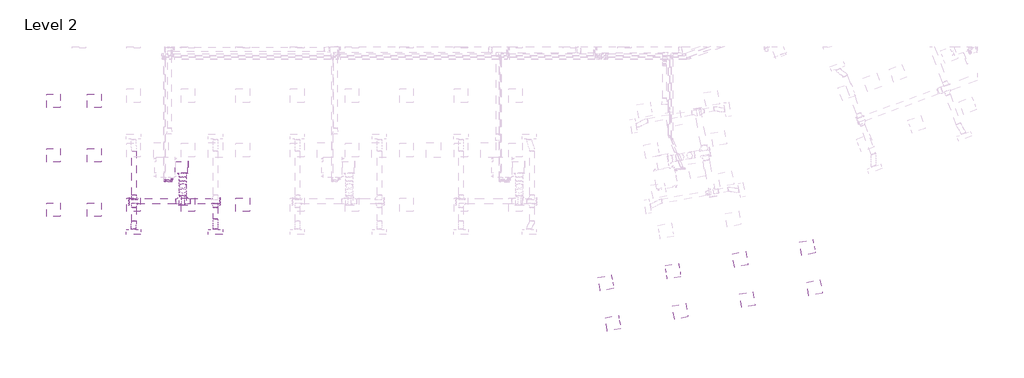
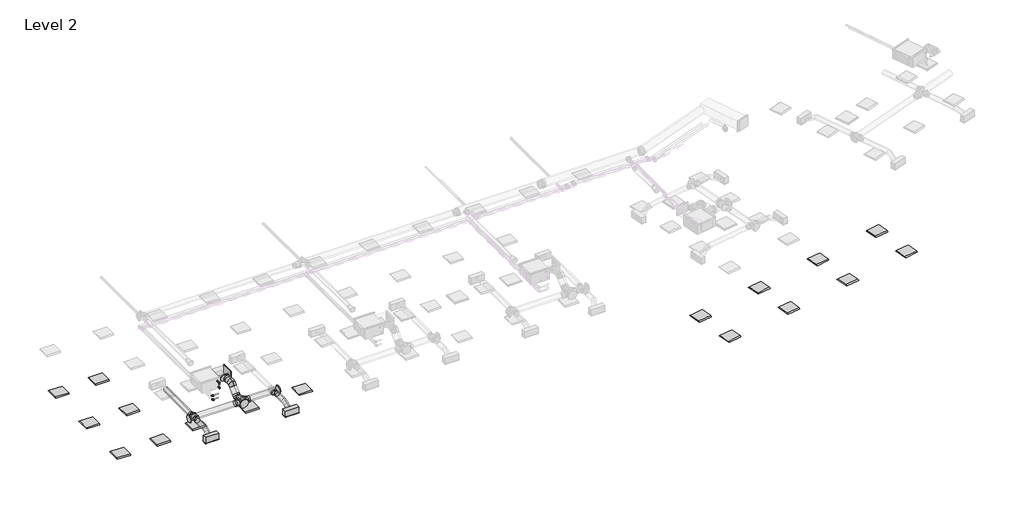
# One storey, part 1 of 26: 17 light fixtures, 12 duct fittings, 11 duct segments, 6 pipe fittings, 4 pipe segments, 2 air terminals.
"""IFC4 building model written with IfcOpenShell, lengths in millimetres."""

from ifc_helpers import new_model, si_unit, point, frame, frame_2d, origin, place, context, project, spatial, polyline, circle_curve, ellipse_curve, trimmed, segment, composite_curve, outline, extrude, transform, mapped, element, save
from ifc_brep_helpers import plane_surface, cylinder_surface, advanced_brep
from components import supply_diffuser_with_plenum_linear_slot_hosted_8c379eed, dw144_rectangular_blank_end_standard_8fde7d16, dw144_round_blank_end_standard_f82b0856, dw144_round_blank_end_standard_9aa061e7, dw144_round_segmented_bend_slip_joint_standard_8b80c5ae, dw144_round_shoe_branch_slip_joint1_standard_2_15a2edd8, dw144_round_shoe_branch_slip_joint1_standard_2_559552f4, dw144_round_shoe_branch_slip_joint1_standard_2_7ba9e4ed, dw144_round_shoe_branch_slip_joint1_standard_2_67b64720, light_fixture_1c7c1157, light_fixture_b730b5ca, elbow_threaded_gmi_standard_b4aa7741, socket_reducing_threaded_gmi_standard_0a4076b8

model = new_model("IFC4")

# Units and contexts
model_context = context("Model", 3, world=origin())
ifc_project = project(units=[si_unit("LENGTHUNIT", "METRE", prefix="MILLI")], contexts=[model_context])

# Site, building, storey
site = spatial("IfcSite", under=ifc_project)
building = spatial("IfcBuilding", under=site)
storey = spatial("IfcBuildingStorey", under=building, Name="Level 2", Elevation=7800.0)

# Air terminals
placement = place(None, origin())
supply_diffuser_with_plenum_linear_slot_hosted_shape = supply_diffuser_with_plenum_linear_slot_hosted_8c379eed(model_context)
element("IfcAirTerminal", 1, ObjectType="Supply Diffuser with Plenum - Linear Slot - Hosted : 24\" x 8\"-200 In Inlet  4-Slot", at=placement, inside=storey, context=model_context, shape_type="MappedRepresentation", body=[
    mapped(supply_diffuser_with_plenum_linear_slot_hosted_shape, transform((9162.2000027, 963.2000004, 10600.0), x_axis=(1.0, 0.0, 0.0), y_axis=(0.0, -1.0, 0.0), z_axis=(0.0, 0.0, -1.0))),
])
element("IfcAirTerminal", 2, ObjectType="Supply Diffuser with Plenum - Linear Slot - Hosted : 24\" x 8\"-200 In Inlet  4-Slot", at=placement, inside=storey, context=model_context, shape_type="MappedRepresentation", body=[
    mapped(supply_diffuser_with_plenum_linear_slot_hosted_shape, transform((12762.2000027, 963.2000004, 10600.0), x_axis=(1.0, 0.0, 0.0), y_axis=(0.0, -1.0, 0.0), z_axis=(0.0, 0.0, -1.0))),
])

# Duct fittings
dw144_rectangular_blank_end_standard_shape = dw144_rectangular_blank_end_standard_8fde7d16(model_context)
element("IfcDuctFitting", 3, ObjectType="DW144 Rectangular Blank End : Standard", at=placement, inside=storey, context=model_context, shape_type="MappedRepresentation", body=[
    mapped(dw144_rectangular_blank_end_standard_shape, transform((11546.2561025, 3806.0000004, 11276.3911538), x_axis=(1.0, 0.0, 0.0), y_axis=(0.0, 1.0, 0.0), z_axis=(0.0, 0.0, 1.0))),
])
dw144_round_blank_end_standard_shape = dw144_round_blank_end_standard_f82b0856(model_context)
element("IfcDuctFitting", 4, ObjectType="DW144 Round Blank End : Standard", at=placement, inside=storey, context=model_context, shape_type="MappedRepresentation", body=[
    mapped(dw144_round_blank_end_standard_shape, transform((11331.4561025, 2142.9916128, 10872.2088531), x_axis=(0.0, -1.0, 0.0), y_axis=(1.0, 0.0, 0.0), z_axis=(0.0, 0.0, 1.0))),
])
dw144_round_blank_end_standard_2_shape = dw144_round_blank_end_standard_9aa061e7(model_context)
element("IfcDuctFitting", 5, ObjectType="DW144 Round Blank End : Standard", at=placement, inside=storey, context=model_context, shape_type="MappedRepresentation", body=[
    mapped(dw144_round_blank_end_standard_2_shape, transform((12961.4561025, 2306.5018192, 10872.2088531), x_axis=(1.0, 0.0, 0.0), y_axis=(0.0, 1.0, 0.0), z_axis=(0.0, 0.0, 1.0))),
])
element("IfcDuctFitting", 6, ObjectType="DW144 Round Blank End : Standard", at=placement, inside=storey, context=model_context, shape_type="MappedRepresentation", body=[
    mapped(dw144_round_blank_end_standard_2_shape, transform((8961.4561025, 2306.5018192, 10872.2088531), x_axis=(-1.0, 0.0, 0.0), y_axis=(0.0, -1.0, 0.0), z_axis=(0.0, 0.0, 1.0))),
])
dw144_round_segmented_bend_slip_joint_standard_shape = dw144_round_segmented_bend_slip_joint_standard_8b80c5ae(model_context)
element("IfcDuctFitting", 7, ObjectType="DW144 Round Segmented Bend - Slip Joint : Standard", at=placement, inside=storey, context=model_context, shape_type="MappedRepresentation", body=[
    mapped(dw144_round_segmented_bend_slip_joint_standard_shape, transform((11331.4561025, 2678.6338536, 10872.2088531), x_axis=(0.0, -0.7071067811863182, -0.7071067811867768), y_axis=(0.0, 0.7071067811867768, -0.7071067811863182), z_axis=(1.0, 0.0, 0.0))),
])
element("IfcDuctFitting", 8, ObjectType="DW144 Round Segmented Bend - Slip Joint : Standard", at=placement, inside=storey, context=model_context, shape_type="MappedRepresentation", body=[
    mapped(dw144_round_segmented_bend_slip_joint_standard_shape, transform((11331.4561025, 3076.0000004, 11269.575), x_axis=(0.0, -1.0, 0.0), y_axis=(0.0, 0.0, 1.0), z_axis=(-1.0, 0.0, 0.0))),
])
dw144_round_shoe_branch_slip_joint1_standard_2_shape = dw144_round_shoe_branch_slip_joint1_standard_2_15a2edd8(model_context)
element("IfcDuctFitting", 9, ObjectType="DW144 Round Shoe Branch - Slip Joint1 : Standard 2", at=placement, inside=storey, context=model_context, shape_type="MappedRepresentation", body=[
    mapped(dw144_round_shoe_branch_slip_joint1_standard_2_shape, transform((9173.9000022, 2181.5018192, 10872.2088531), x_axis=(0.0, -1.0, 0.0), y_axis=(-1.0, 0.0, 0.0), z_axis=(0.0, 0.0, -1.0))),
])
element("IfcDuctFitting", 10, ObjectType="DW144 Round Shoe Branch - Slip Joint1 : Standard 2", at=placement, inside=storey, context=model_context, shape_type="MappedRepresentation", body=[
    mapped(dw144_round_shoe_branch_slip_joint1_standard_2_shape, transform((9173.9000022, 2431.5018192, 10872.2088531), x_axis=(0.0, 1.0, 0.0), y_axis=(-1.0, 0.0, 0.0), z_axis=(0.0, 0.0, 1.0))),
])
dw144_round_shoe_branch_slip_joint1_standard_2_2_shape = dw144_round_shoe_branch_slip_joint1_standard_2_559552f4(model_context)
element("IfcDuctFitting", 11, ObjectType="DW144 Round Shoe Branch - Slip Joint1 : Standard 2", at=placement, inside=storey, context=model_context, shape_type="MappedRepresentation", body=[
    mapped(dw144_round_shoe_branch_slip_joint1_standard_2_2_shape, transform((12773.9000022, 2181.5018192, 10872.2088531), x_axis=(0.0, -1.0, 0.0), y_axis=(-1.0, 0.0, 0.0), z_axis=(0.0, 0.0, -1.0))),
])
dw144_round_shoe_branch_slip_joint1_standard_2_3_shape = dw144_round_shoe_branch_slip_joint1_standard_2_7ba9e4ed(model_context)
element("IfcDuctFitting", 12, ObjectType="DW144 Round Shoe Branch - Slip Joint1 : Standard 2", at=placement, inside=storey, context=model_context, shape_type="MappedRepresentation", body=[
    mapped(dw144_round_shoe_branch_slip_joint1_standard_2_3_shape, transform((11331.4561025, 3556.0000004, 11269.575), x_axis=(0.0, -1.0, 0.0), y_axis=(-1.0, 0.0, 0.0), z_axis=(0.0, 0.0, -1.0))),
])
dw144_round_shoe_branch_slip_joint1_standard_2_4_shape = dw144_round_shoe_branch_slip_joint1_standard_2_67b64720(model_context)
element("IfcDuctFitting", 13, ObjectType="DW144 Round Shoe Branch - Slip Joint1 : Standard 2", at=placement, inside=storey, context=model_context, shape_type="MappedRepresentation", body=[
    mapped(dw144_round_shoe_branch_slip_joint1_standard_2_4_shape, transform((11481.4561025, 2306.5018192, 10872.2088531), x_axis=(1.0, 0.0, 0.0), y_axis=(0.0, -1.0, 0.0), z_axis=(0.0, 0.0, -1.0))),
])
element("IfcDuctFitting", 14, ObjectType="DW144 Round Shoe Branch - Slip Joint1 : Standard 2", at=placement, inside=storey, context=model_context, shape_type="MappedRepresentation", body=[
    mapped(dw144_round_shoe_branch_slip_joint1_standard_2_4_shape, transform((11181.4561025, 2306.5018192, 10872.2088531), x_axis=(-1.0, 0.0, 0.0), y_axis=(0.0, -1.0, 0.0), z_axis=(0.0, 0.0, 1.0))),
])

# Duct segments
element("IfcDuctSegment", 15, ObjectType="DW144 Flanged Med Radius Bend / Shoe Branch", at=placement, inside=storey, context=model_context, shape_type="SweptSolid", body=[
    extrude(outline(polyline([(10993.0441119, 3556.0000004), (10993.0441119, 4056.0000004), (11546.2561025, 4056.0000004), (11546.2561025, 3556.0000004), (10993.0441119, 3556.0000004)])), frame((0.0, 0.0, 11101.3911538), z_axis=(0.0, 0.0, 1.0), x_axis=(1.0, 0.0, 0.0)), (0.0, 0.0, 1.0), 350.0),
])
element("IfcDuctSegment", 16, ObjectType="DW144 Segmented Bend / Shoe Branch", at=placement, inside=storey, context=model_context, shape_type="SweptSolid", body=[
    extrude(outline(composite_curve([segment(trimmed(circle_curve(frame_2d((11269.575, 11331.4561025)), 150.0), [point((11269.575, 11181.4561025))], [point((11119.575, 11331.4561025))], False, "CARTESIAN"), True, "CONTINUOUS"), segment(trimmed(circle_curve(frame_2d((11269.575, 11331.4561025)), 150.0), [point((11119.575, 11331.4561025))], [point((11269.575, 11481.4561025))], False, "CARTESIAN"), True, "CONTINUOUS"), segment(trimmed(circle_curve(frame_2d((11269.575, 11331.4561025)), 150.0), [point((11269.575, 11481.4561025))], [point((11419.575, 11331.4561025))], False, "CARTESIAN"), True, "CONTINUOUS"), segment(trimmed(circle_curve(frame_2d((11269.575, 11331.4561025)), 150.0), [point((11419.575, 11331.4561025))], [point((11269.575, 11181.4561025))], False, "CARTESIAN"), True, "CONTINUOUS")], self_intersect=False)), frame((0.0, 3200.2640691, 0.0), z_axis=(0.0, 1.0, 0.0), x_axis=(0.0, 0.0, 1.0)), (0.0, 0.0, 1.0), 180.7359313),
])
element("IfcDuctSegment", 17, ObjectType="DW144 Segmented Bend / Shoe Branch", at=placement, inside=storey, context=model_context, shape_type="SweptSolid", body=[
    extrude(outline(composite_curve([segment(trimmed(circle_curve(frame_2d((10872.2088531, 11331.4561025)), 150.0), [point((10872.2088531, 11181.4561025))], [point((10722.2088531, 11331.4561025))], False, "CARTESIAN"), True, "CONTINUOUS"), segment(trimmed(circle_curve(frame_2d((10872.2088531, 11331.4561025)), 150.0), [point((10722.2088531, 11331.4561025))], [point((10872.2088531, 11481.4561025))], False, "CARTESIAN"), True, "CONTINUOUS"), segment(trimmed(circle_curve(frame_2d((10872.2088531, 11331.4561025)), 150.0), [point((10872.2088531, 11481.4561025))], [point((11022.2088531, 11331.4561025))], False, "CARTESIAN"), True, "CONTINUOUS"), segment(trimmed(circle_curve(frame_2d((10872.2088531, 11331.4561025)), 150.0), [point((11022.2088531, 11331.4561025))], [point((10872.2088531, 11181.4561025))], False, "CARTESIAN"), True, "CONTINUOUS")], self_intersect=False)), frame((0.0, 2142.9916128, 0.0), z_axis=(0.0, 1.0, 0.0), x_axis=(0.0, 0.0, 1.0)), (0.0, 0.0, 1.0), 411.3781721),
])
element("IfcDuctSegment", 18, ObjectType="DW144 Segmented Bend / Shoe Branch", at=placement, inside=storey, context=model_context, shape_type="SweptSolid", body=[
    extrude(outline(composite_curve([segment(trimmed(circle_curve(frame_2d((0.0, -150.0)), 150.0), [point((-150.0, -150.0))], [point((0.0, 0.0))], False, "CARTESIAN"), True, "CONTINUOUS"), segment(trimmed(circle_curve(frame_2d((0.0, -150.0)), 150.0), [point((0.0, 0.0))], [point((150.0, -150.0))], False, "CARTESIAN"), True, "CONTINUOUS"), segment(trimmed(circle_curve(frame_2d((0.0, -150.0)), 150.0), [point((150.0, -150.0))], [point((0.0, -300.0))], False, "CARTESIAN"), True, "CONTINUOUS"), segment(trimmed(circle_curve(frame_2d((0.0, -150.0)), 150.0), [point((0.0, -300.0))], [point((-150.0, -150.0))], False, "CARTESIAN"), True, "CONTINUOUS")], self_intersect=False)), frame((11331.4561025, 2872.5678364, 10854.0108016), z_axis=(0.0, 0.7071067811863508, 0.7071067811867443), x_axis=(1.0, 0.0, 0.0)), (0.0, 0.0, 1.0), 313.4324567),
])
element("IfcDuctSegment", 19, ObjectType="DW144 Segmented Bend / Shoe Branch", at=placement, inside=storey, context=model_context, shape_type="SweptSolid", body=[
    extrude(outline(composite_curve([segment(trimmed(circle_curve(frame_2d((2306.5018192, 10872.2088531)), 125.0), [point((2181.5018192, 10872.2088531))], [point((2306.5018192, 10997.2088531))], False, "CARTESIAN"), True, "CONTINUOUS"), segment(trimmed(circle_curve(frame_2d((2306.5018192, 10872.2088531)), 125.0), [point((2306.5018192, 10997.2088531))], [point((2431.5018192, 10872.2088531))], False, "CARTESIAN"), True, "CONTINUOUS"), segment(trimmed(circle_curve(frame_2d((2306.5018192, 10872.2088531)), 125.0), [point((2431.5018192, 10872.2088531))], [point((2306.5018192, 10747.2088531))], False, "CARTESIAN"), True, "CONTINUOUS"), segment(trimmed(circle_curve(frame_2d((2306.5018192, 10872.2088531)), 125.0), [point((2306.5018192, 10747.2088531))], [point((2181.5018192, 10872.2088531))], False, "CARTESIAN"), True, "CONTINUOUS")], self_intersect=False)), frame((11656.4561025, 0.0, 0.0), z_axis=(1.0, 0.0, 0.0), x_axis=(0.0, 1.0, 0.0)), (0.0, 0.0, 1.0), 1305.0),
])
element("IfcDuctSegment", 20, ObjectType="DW144 Segmented Bend / Shoe Branch", at=placement, inside=storey, context=model_context, shape_type="SweptSolid", body=[
    extrude(outline(composite_curve([segment(trimmed(circle_curve(frame_2d((2306.5018192, 10872.2088531)), 125.0), [point((2431.5018192, 10872.2088531))], [point((2306.5018192, 10747.2088531))], False, "CARTESIAN"), True, "CONTINUOUS"), segment(trimmed(circle_curve(frame_2d((2306.5018192, 10872.2088531)), 125.0), [point((2306.5018192, 10747.2088531))], [point((2181.5018192, 10872.2088531))], False, "CARTESIAN"), True, "CONTINUOUS"), segment(trimmed(circle_curve(frame_2d((2306.5018192, 10872.2088531)), 125.0), [point((2181.5018192, 10872.2088531))], [point((2306.5018192, 10997.2088531))], False, "CARTESIAN"), True, "CONTINUOUS"), segment(trimmed(circle_curve(frame_2d((2306.5018192, 10872.2088531)), 125.0), [point((2306.5018192, 10997.2088531))], [point((2431.5018192, 10872.2088531))], False, "CARTESIAN"), True, "CONTINUOUS")], self_intersect=False)), frame((8961.4561025, 0.0, 0.0), z_axis=(1.0, 0.0, 0.0), x_axis=(0.0, 1.0, 0.0)), (0.0, 0.0, 1.0), 2045.0),
])
element("IfcDuctSegment", 21, ObjectType="DW144 Segmented Bend / Shoe Branch", at=placement, inside=storey, context=model_context, shape_type="SweptSolid", body=[
    extrude(outline(composite_curve([segment(trimmed(circle_curve(frame_2d((10872.2088531, 12773.9000022)), 100.0), [point((10872.2088531, 12673.9000022))], [point((10772.2088531, 12773.9000022))], False, "CARTESIAN"), True, "CONTINUOUS"), segment(trimmed(circle_curve(frame_2d((10872.2088531, 12773.9000022)), 100.0), [point((10772.2088531, 12773.9000022))], [point((10872.2088531, 12873.9000022))], False, "CARTESIAN"), True, "CONTINUOUS"), segment(trimmed(circle_curve(frame_2d((10872.2088531, 12773.9000022)), 100.0), [point((10872.2088531, 12873.9000022))], [point((10972.2088531, 12773.9000022))], False, "CARTESIAN"), True, "CONTINUOUS"), segment(trimmed(circle_curve(frame_2d((10872.2088531, 12773.9000022)), 100.0), [point((10972.2088531, 12773.9000022))], [point((10872.2088531, 12673.9000022))], False, "CARTESIAN"), True, "CONTINUOUS")], self_intersect=False)), frame((0.0, 1521.5018192, 0.0), z_axis=(0.0, 1.0, 0.0), x_axis=(0.0, 0.0, 1.0)), (0.0, 0.0, 1.0), 510.0),
])
element("IfcDuctSegment", 22, ObjectType="DW144 Segmented Bend / Shoe Branch", at=placement, inside=storey, context=model_context, shape_type="SweptSolid", body=[
    extrude(outline(composite_curve([segment(trimmed(circle_curve(frame_2d((10872.2088531, 9173.9000022)), 100.0), [point((10872.2088531, 9273.9000022))], [point((10972.2088531, 9173.9000022))], False, "CARTESIAN"), True, "CONTINUOUS"), segment(trimmed(circle_curve(frame_2d((10872.2088531, 9173.9000022)), 100.0), [point((10972.2088531, 9173.9000022))], [point((10872.2088531, 9073.9000022))], False, "CARTESIAN"), True, "CONTINUOUS"), segment(trimmed(circle_curve(frame_2d((10872.2088531, 9173.9000022)), 100.0), [point((10872.2088531, 9073.9000022))], [point((10772.2088531, 9173.9000022))], False, "CARTESIAN"), True, "CONTINUOUS"), segment(trimmed(circle_curve(frame_2d((10872.2088531, 9173.9000022)), 100.0), [point((10772.2088531, 9173.9000022))], [point((10872.2088531, 9273.9000022))], False, "CARTESIAN"), True, "CONTINUOUS")], self_intersect=False)), frame((0.0, 1441.5018192, 0.0), z_axis=(0.0, 1.0, 0.0), x_axis=(0.0, 0.0, 1.0)), (0.0, 0.0, 1.0), 590.0),
])
element("IfcDuctSegment", 23, ObjectType="DW144 Segmented Bend / Shoe Branch", at=placement, inside=storey, context=model_context, shape_type="SweptSolid", body=[
    extrude(outline(composite_curve([segment(trimmed(circle_curve(frame_2d((10872.2088531, 9173.9000022)), 100.0), [point((10872.2088531, 9273.9000022))], [point((10972.2088531, 9173.9000022))], False, "CARTESIAN"), True, "CONTINUOUS"), segment(trimmed(circle_curve(frame_2d((10872.2088531, 9173.9000022)), 100.0), [point((10972.2088531, 9173.9000022))], [point((10872.2088531, 9073.9000022))], False, "CARTESIAN"), True, "CONTINUOUS"), segment(trimmed(circle_curve(frame_2d((10872.2088531, 9173.9000022)), 100.0), [point((10872.2088531, 9073.9000022))], [point((10772.2088531, 9173.9000022))], False, "CARTESIAN"), True, "CONTINUOUS"), segment(trimmed(circle_curve(frame_2d((10872.2088531, 9173.9000022)), 100.0), [point((10772.2088531, 9173.9000022))], [point((10872.2088531, 9273.9000022))], False, "CARTESIAN"), True, "CONTINUOUS")], self_intersect=False)), frame((0.0, 2581.5018192, 0.0), z_axis=(0.0, 1.0, 0.0), x_axis=(0.0, 0.0, 1.0)), (0.0, 0.0, 1.0), 1950.0),
])
element("IfcDuctSegment", 24, ObjectType="Flex - Round", at=placement, inside=storey, context=model_context, shape_type="AdvancedBrep", body=[
    advanced_brep(
    [(9273.9000022, 1441.5018192, 10872.2088531), (9173.9000022, 1441.5018192, 10772.2088531), (9073.9000022, 1441.5018192, 10872.2088531), (9173.9000022, 1441.5018192, 10972.2088531), (9273.9000022, 1419.9886644, 10872.2088531), (9173.9000022, 1434.4041273, 10772.2088531), (9073.9000022, 1422.5932881, 10872.2088531), (9173.9000022, 1408.1778252, 10972.2088531), (9262.2000027, 1092.1000004, 10754.4), (9162.2000027, 1092.1000004, 10854.4), (9062.2000027, 1092.1000004, 10754.4), (9162.2000027, 1092.1000004, 10654.4), (9272.0154345, 1348.8904029, 10853.2328893), (9172.6402079, 1386.8764181, 10759.5238159), (9072.1283201, 1355.7538157, 10854.3695504), (9171.5035467, 1317.7678004, 10948.0786237), (9267.9552415, 1262.5544078, 10812.3502664), (9169.0041626, 1309.5595036, 10722.9119919), (9068.1447633, 1271.0474118, 10814.2585867), (9167.0958423, 1224.0423161, 10903.6968612), (9263.9716847, 1177.8480039, 10772.2393027), (9164.5964582, 1215.8340192, 10678.5302294), (9064.0845704, 1184.7114168, 10773.3759639), (9163.459797, 1146.7254015, 10867.0850372), (9262.2000027, 1111.0085316, 10754.4), (9162.2000027, 1125.4239944, 10654.4), (9062.2000027, 1113.6131552, 10754.4), (9162.2000027, 1099.1976924, 10854.4)],
    [
        (0, 1, circle_curve(frame((9173.9000022, 1441.5018192, 10872.2088531), z_axis=(0.0, 1.0, 0.0), x_axis=(1.0, 0.0, 0.0)), 100.0)),
        (1, 2, circle_curve(frame((9173.9000022, 1441.5018192, 10872.2088531), z_axis=(0.0, 1.0, 0.0), x_axis=(1.0, 0.0, 0.0)), 100.0)),
        (2, 3, circle_curve(frame((9173.9000022, 1441.5018192, 10872.2088531), z_axis=(0.0, 1.0, 0.0), x_axis=(1.0, 0.0, 0.0)), 100.0)),
        (3, 0, circle_curve(frame((9173.9000022, 1441.5018192, 10872.2088531), z_axis=(0.0, 1.0, 0.0), x_axis=(1.0, 0.0, 0.0)), 100.0)),
        (0, 4),
        (4, 5, ellipse_curve(frame((9173.9000022, 1421.2909763, 10872.2088531), z_axis=(0.01291149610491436, 0.9914289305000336, 0.13000757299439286), x_axis=(-0.09798018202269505, 0.1306471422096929, -0.9865754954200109)), 100.8645168, 100.0)),
        (5, 1),
        (5, 6, ellipse_curve(frame((9173.9000022, 1421.2909763, 10872.2088531), z_axis=(0.01291149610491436, 0.9914289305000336, 0.13000757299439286), x_axis=(-0.09798018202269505, 0.1306471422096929, -0.9865754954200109)), 100.8645168, 100.0)),
        (6, 2),
        (6, 7, ellipse_curve(frame((9173.9000022, 1421.2909763, 10872.2088531), z_axis=(0.01291149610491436, 0.9914289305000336, 0.13000757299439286), x_axis=(-0.09798018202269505, 0.1306471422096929, -0.9865754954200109)), 100.8645168, 100.0)),
        (7, 3),
        (7, 4, ellipse_curve(frame((9173.9000022, 1421.2909763, 10872.2088531), z_axis=(0.01291149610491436, 0.9914289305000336, 0.13000757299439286), x_axis=(-0.09798018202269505, 0.1306471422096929, -0.9865754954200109)), 100.8645168, 100.0)),
        (8, 9, circle_curve(frame((9162.2000027, 1092.1000004, 10754.4), z_axis=(0.0, -1.0, 0.0), x_axis=(1.0, 0.0, 0.0)), 100.0)),
        (9, 10, circle_curve(frame((9162.2000027, 1092.1000004, 10754.4), z_axis=(0.0, -1.0, 0.0), x_axis=(1.0, 0.0, 0.0)), 100.0)),
        (10, 11, circle_curve(frame((9162.2000027, 1092.1000004, 10754.4), z_axis=(0.0, -1.0, 0.0), x_axis=(1.0, 0.0, 0.0)), 100.0)),
        (11, 8, circle_curve(frame((9162.2000027, 1092.1000004, 10754.4), z_axis=(0.0, -1.0, 0.0), x_axis=(1.0, 0.0, 0.0)), 100.0)),
        (4, 12),
        (12, 13, ellipse_curve(frame((9172.0718773, 1352.3221093, 10853.8012198), z_axis=(0.03417490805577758, 0.9383065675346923, 0.34411169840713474), x_axis=(-0.09273024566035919, 0.34580454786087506, -0.9337131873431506)), 100.4159667, 100.0)),
        (13, 5),
        (13, 14, ellipse_curve(frame((9172.0718773, 1352.3221093, 10853.8012198), z_axis=(0.03417490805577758, 0.9383065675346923, 0.34411169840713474), x_axis=(-0.09273024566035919, 0.34580454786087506, -0.9337131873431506)), 100.4159667, 100.0)),
        (14, 6),
        (14, 15, ellipse_curve(frame((9172.0718773, 1352.3221093, 10853.8012198), z_axis=(0.03417490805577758, 0.9383065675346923, 0.34411169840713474), x_axis=(-0.09273024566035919, 0.34580454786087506, -0.9337131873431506)), 100.4159667, 100.0)),
        (15, 7),
        (15, 12, ellipse_curve(frame((9172.0718773, 1352.3221093, 10853.8012198), z_axis=(0.03417490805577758, 0.9383065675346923, 0.34411169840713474), x_axis=(-0.09273024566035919, 0.34580454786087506, -0.9337131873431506)), 100.4159667, 100.0)),
        (12, 16),
        (16, 17, circle_curve(frame((9168.0500024, 1266.8009098, 10813.3044266), z_axis=(0.04246501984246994, 0.9029767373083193, 0.42758593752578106), x_axis=(0.999052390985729, -0.042465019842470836, -0.009541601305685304)), 100.0)),
        (17, 13),
        (17, 18, circle_curve(frame((9168.0500024, 1266.8009098, 10813.3044266), z_axis=(0.04246501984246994, 0.9029767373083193, 0.42758593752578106), x_axis=(0.999052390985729, -0.042465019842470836, -0.009541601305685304)), 100.0)),
        (18, 14),
        (18, 19, circle_curve(frame((9168.0500024, 1266.8009098, 10813.3044266), z_axis=(0.04246501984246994, 0.9029767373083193, 0.42758593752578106), x_axis=(0.999052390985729, -0.042465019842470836, -0.009541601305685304)), 100.0)),
        (19, 15),
        (19, 16, circle_curve(frame((9168.0500024, 1266.8009098, 10813.3044266), z_axis=(0.04246501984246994, 0.9029767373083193, 0.42758593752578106), x_axis=(0.999052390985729, -0.042465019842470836, -0.009541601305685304)), 100.0)),
        (16, 20),
        (20, 21, ellipse_curve(frame((9164.0281276, 1181.2797104, 10772.8076333), z_axis=(0.03417490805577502, 0.9383065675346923, 0.3441116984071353), x_axis=(0.09273024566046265, -0.34580454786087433, 0.9337131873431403)), 100.4159667, 100.0)),
        (21, 17),
        (21, 22, ellipse_curve(frame((9164.0281276, 1181.2797104, 10772.8076333), z_axis=(0.03417490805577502, 0.9383065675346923, 0.3441116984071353), x_axis=(0.09273024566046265, -0.34580454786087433, 0.9337131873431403)), 100.4159667, 100.0)),
        (22, 18),
        (22, 23, ellipse_curve(frame((9164.0281276, 1181.2797104, 10772.8076333), z_axis=(0.03417490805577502, 0.9383065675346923, 0.3441116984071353), x_axis=(0.09273024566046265, -0.34580454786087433, 0.9337131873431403)), 100.4159667, 100.0)),
        (23, 19),
        (23, 20, ellipse_curve(frame((9164.0281276, 1181.2797104, 10772.8076333), z_axis=(0.03417490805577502, 0.9383065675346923, 0.3441116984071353), x_axis=(0.09273024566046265, -0.34580454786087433, 0.9337131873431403)), 100.4159667, 100.0)),
        (20, 24),
        (24, 25, ellipse_curve(frame((9162.2000027, 1112.3108434, 10754.4), z_axis=(0.012911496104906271, 0.9914289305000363, 0.13000757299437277), x_axis=(0.09798018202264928, -0.1306471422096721, 0.9865754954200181)), 100.8645168, 100.0)),
        (25, 21),
        (25, 26, ellipse_curve(frame((9162.2000027, 1112.3108434, 10754.4), z_axis=(0.012911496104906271, 0.9914289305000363, 0.13000757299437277), x_axis=(0.09798018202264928, -0.1306471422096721, 0.9865754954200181)), 100.8645168, 100.0)),
        (26, 22),
        (26, 27, ellipse_curve(frame((9162.2000027, 1112.3108434, 10754.4), z_axis=(0.012911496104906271, 0.9914289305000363, 0.13000757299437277), x_axis=(0.09798018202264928, -0.1306471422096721, 0.9865754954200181)), 100.8645168, 100.0)),
        (27, 23),
        (27, 24, ellipse_curve(frame((9162.2000027, 1112.3108434, 10754.4), z_axis=(0.012911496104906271, 0.9914289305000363, 0.13000757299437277), x_axis=(0.09798018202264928, -0.1306471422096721, 0.9865754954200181)), 100.8645168, 100.0)),
        (24, 8),
        (11, 25),
        (10, 26),
        (9, 27),
    ],
    [
        plane_surface(frame((9073.9000022, 1441.5018192, 10872.2088531), z_axis=(0.0, 1.0, 0.0), x_axis=(0.0, 0.0, -1.0))),
        cylinder_surface(frame((9173.9000022, 1441.5018192, 10872.2088531), z_axis=(0.0, 1.0, 0.0), x_axis=(1.0, 0.0, 0.0)), 100.0),
        plane_surface(frame((9062.2000027, 1092.1000004, 10754.4), z_axis=(0.0, -1.0, 0.0), x_axis=(0.0, 0.0, -1.0))),
        cylinder_surface(frame((9173.9000022, 1421.2909763, 10872.2088531), z_axis=(0.02560166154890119, 0.9658626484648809, 0.25778653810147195), x_axis=(0.9996665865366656, -0.02560166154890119, -0.0033571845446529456)), 100.0),
        cylinder_surface(frame((9172.0718773, 1352.3221093, 10853.8012198), z_axis=(0.04246501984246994, 0.9029767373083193, 0.42758593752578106), x_axis=(0.999052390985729, -0.042465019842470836, -0.009541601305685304)), 100.0),
        cylinder_surface(frame((9168.0500024, 1266.8009098, 10813.3044266), z_axis=(0.042465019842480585, 0.902976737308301, 0.42758593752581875), x_axis=(0.9990523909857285, -0.042465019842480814, -0.009541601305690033)), 100.0),
        cylinder_surface(frame((9164.0281276, 1181.2797104, 10772.8076333), z_axis=(0.025601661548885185, 0.9658626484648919, 0.25778653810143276), x_axis=(0.9996665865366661, -0.025601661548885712, -0.00335718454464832)), 100.0),
        cylinder_surface(frame((9162.2000027, 1112.3108434, 10754.4), z_axis=(0.0, 1.0, 0.0), x_axis=(1.0, 0.0, 0.0)), 100.0),
    ],
    [
        (0, [[1, 2, 3, 4]]),
        (1, [[-1, 5, 6, 7]]),
        (1, [[-2, -7, 8, 9]]),
        (1, [[-3, -9, 10, 11]]),
        (1, [[-4, -11, 12, -5]]),
        (2, [[13, 14, 15, 16]]),
        (3, [[-6, 17, 18, 19]]),
        (3, [[-8, -19, 20, 21]]),
        (3, [[-10, -21, 22, 23]]),
        (3, [[-12, -23, 24, -17]]),
        (4, [[-18, 25, 26, 27]]),
        (4, [[-20, -27, 28, 29]]),
        (4, [[-22, -29, 30, 31]]),
        (4, [[-24, -31, 32, -25]]),
        (5, [[-26, 33, 34, 35]]),
        (5, [[-28, -35, 36, 37]]),
        (5, [[-30, -37, 38, 39]]),
        (5, [[-32, -39, 40, -33]]),
        (6, [[-34, 41, 42, 43]]),
        (6, [[-36, -43, 44, 45]]),
        (6, [[-38, -45, 46, 47]]),
        (6, [[-40, -47, 48, -41]]),
        (7, [[-42, 49, -16, 50]]),
        (7, [[-44, -50, -15, 51]]),
        (7, [[-46, -51, -14, 52]]),
        (7, [[-48, -52, -13, -49]]),
    ],
),
])
element("IfcDuctSegment", 25, ObjectType="Flex - Round", at=placement, inside=storey, context=model_context, shape_type="AdvancedBrep", body=[
    advanced_brep(
    [(12873.9000022, 1521.5018192, 10872.2088531), (12773.9000022, 1521.5018192, 10772.2088531), (12673.9000022, 1521.5018192, 10872.2088531), (12773.9000022, 1521.5018192, 10972.2088531), (12873.9000022, 1503.8483968, 10872.2088531), (12773.9000022, 1514.716186, 10772.2088531), (12673.9000022, 1505.8120174, 10872.2088531), (12773.9000022, 1494.9442282, 10972.2088531), (12862.2000027, 1092.1000004, 10754.4), (12762.2000027, 1092.1000004, 10854.4), (12662.2000027, 1092.1000004, 10754.4), (12762.2000027, 1092.1000004, 10654.4), (12872.0365094, 1409.8841765, 10853.4450953), (12772.4280018, 1440.492465, 10757.3870846), (12672.1072452, 1415.4145623, 10854.1573443), (12771.7157528, 1384.8062738, 10950.2153551), (12867.9849454, 1303.2543522, 10812.6493581), (12768.7050709, 1342.5116705, 10719.9003985), (12668.1150595, 1310.3474674, 10813.9594951), (12767.3949339, 1271.0901491, 10906.7084546), (12863.9927597, 1198.1872573, 10772.4515088), (12764.3842521, 1228.7955458, 10676.3934981), (12664.0634955, 1203.7176431, 10773.1637578), (12763.6720031, 1173.1093547, 10869.2217685), (12862.2000027, 1107.7898022, 10754.4), (12762.2000027, 1118.6575914, 10654.4), (12662.2000027, 1109.7534229, 10754.4), (12762.2000027, 1098.8856336, 10854.4)],
    [
        (0, 1, circle_curve(frame((12773.9000022, 1521.5018192, 10872.2088531), z_axis=(0.0, 1.0, 0.0), x_axis=(1.0, 0.0, 0.0)), 100.0)),
        (1, 2, circle_curve(frame((12773.9000022, 1521.5018192, 10872.2088531), z_axis=(0.0, 1.0, 0.0), x_axis=(1.0, 0.0, 0.0)), 100.0)),
        (2, 3, circle_curve(frame((12773.9000022, 1521.5018192, 10872.2088531), z_axis=(0.0, 1.0, 0.0), x_axis=(1.0, 0.0, 0.0)), 100.0)),
        (3, 0, circle_curve(frame((12773.9000022, 1521.5018192, 10872.2088531), z_axis=(0.0, 1.0, 0.0), x_axis=(1.0, 0.0, 0.0)), 100.0)),
        (0, 4),
        (4, 5, ellipse_curve(frame((12773.9000022, 1504.8302071, 10872.2088531), z_axis=(0.009770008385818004, 0.9951014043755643, 0.09837551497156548), x_axis=(-0.09834312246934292, 0.09885947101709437, -0.9902299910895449)), 100.492271, 100.0)),
        (5, 1),
        (5, 6, ellipse_curve(frame((12773.9000022, 1504.8302071, 10872.2088531), z_axis=(0.009770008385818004, 0.9951014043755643, 0.09837551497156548), x_axis=(-0.09834312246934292, 0.09885947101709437, -0.9902299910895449)), 100.492271, 100.0)),
        (6, 2),
        (6, 7, ellipse_curve(frame((12773.9000022, 1504.8302071, 10872.2088531), z_axis=(0.009770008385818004, 0.9951014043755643, 0.09837551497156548), x_axis=(-0.09834312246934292, 0.09885947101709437, -0.9902299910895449)), 100.492271, 100.0)),
        (7, 3),
        (7, 4, ellipse_curve(frame((12773.9000022, 1504.8302071, 10872.2088531), z_axis=(0.009770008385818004, 0.9951014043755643, 0.09837551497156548), x_axis=(-0.09834312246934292, 0.09885947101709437, -0.9902299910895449)), 100.492271, 100.0)),
        (8, 9, circle_curve(frame((12762.2000027, 1092.1000004, 10754.4), z_axis=(0.0, -1.0, 0.0), x_axis=(1.0, 0.0, 0.0)), 100.0)),
        (9, 10, circle_curve(frame((12762.2000027, 1092.1000004, 10754.4), z_axis=(0.0, -1.0, 0.0), x_axis=(1.0, 0.0, 0.0)), 100.0)),
        (10, 11, circle_curve(frame((12762.2000027, 1092.1000004, 10754.4), z_axis=(0.0, -1.0, 0.0), x_axis=(1.0, 0.0, 0.0)), 100.0)),
        (11, 8, circle_curve(frame((12762.2000027, 1092.1000004, 10754.4), z_axis=(0.0, -1.0, 0.0), x_axis=(1.0, 0.0, 0.0)), 100.0)),
        (4, 12),
        (12, 13, ellipse_curve(frame((12772.0718773, 1412.6493694, 10853.8012198), z_axis=(0.027553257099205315, 0.960348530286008, 0.27743741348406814), x_axis=(-0.09490859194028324, 0.278802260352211, -0.955647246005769)), 100.358114, 100.0)),
        (13, 5),
        (13, 14, ellipse_curve(frame((12772.0718773, 1412.6493694, 10853.8012198), z_axis=(0.027553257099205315, 0.960348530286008, 0.27743741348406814), x_axis=(-0.09490859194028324, 0.278802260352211, -0.955647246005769)), 100.358114, 100.0)),
        (14, 6),
        (14, 15, ellipse_curve(frame((12772.0718773, 1412.6493694, 10853.8012198), z_axis=(0.027553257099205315, 0.960348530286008, 0.27743741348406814), x_axis=(-0.09490859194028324, 0.278802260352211, -0.955647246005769)), 100.358114, 100.0)),
        (15, 7),
        (15, 12, ellipse_curve(frame((12772.0718773, 1412.6493694, 10853.8012198), z_axis=(0.027553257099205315, 0.960348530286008, 0.27743741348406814), x_axis=(-0.09490859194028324, 0.278802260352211, -0.955647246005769)), 100.358114, 100.0)),
        (12, 16),
        (16, 17, circle_curve(frame((12768.0500024, 1306.8009098, 10813.3044266), z_axis=(0.035465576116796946, 0.9333897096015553, 0.3571076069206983), x_axis=(0.9993494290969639, -0.03546557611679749, -0.006550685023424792)), 100.0)),
        (17, 13),
        (17, 18, circle_curve(frame((12768.0500024, 1306.8009098, 10813.3044266), z_axis=(0.035465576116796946, 0.9333897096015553, 0.3571076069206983), x_axis=(0.9993494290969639, -0.03546557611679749, -0.006550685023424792)), 100.0)),
        (18, 14),
        (18, 19, circle_curve(frame((12768.0500024, 1306.8009098, 10813.3044266), z_axis=(0.035465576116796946, 0.9333897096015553, 0.3571076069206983), x_axis=(0.9993494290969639, -0.03546557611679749, -0.006550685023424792)), 100.0)),
        (19, 15),
        (19, 16, circle_curve(frame((12768.0500024, 1306.8009098, 10813.3044266), z_axis=(0.035465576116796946, 0.9333897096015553, 0.3571076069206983), x_axis=(0.9993494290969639, -0.03546557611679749, -0.006550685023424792)), 100.0)),
        (16, 20),
        (20, 21, ellipse_curve(frame((12764.0281276, 1200.9524502, 10772.8076333), z_axis=(0.027553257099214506, 0.9603485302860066, 0.27743741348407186), x_axis=(0.09490859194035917, -0.27880226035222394, 0.9556472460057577)), 100.358114, 100.0)),
        (21, 17),
        (21, 22, ellipse_curve(frame((12764.0281276, 1200.9524502, 10772.8076333), z_axis=(0.027553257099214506, 0.9603485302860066, 0.27743741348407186), x_axis=(0.09490859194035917, -0.27880226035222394, 0.9556472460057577)), 100.358114, 100.0)),
        (22, 18),
        (22, 23, ellipse_curve(frame((12764.0281276, 1200.9524502, 10772.8076333), z_axis=(0.027553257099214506, 0.9603485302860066, 0.27743741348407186), x_axis=(0.09490859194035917, -0.27880226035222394, 0.9556472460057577)), 100.358114, 100.0)),
        (23, 19),
        (23, 20, ellipse_curve(frame((12764.0281276, 1200.9524502, 10772.8076333), z_axis=(0.027553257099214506, 0.9603485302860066, 0.27743741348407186), x_axis=(0.09490859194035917, -0.27880226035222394, 0.9556472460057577)), 100.358114, 100.0)),
        (20, 24),
        (24, 25, ellipse_curve(frame((12762.2000027, 1108.7716125, 10754.4), z_axis=(0.009770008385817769, 0.9951014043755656, 0.09837551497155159), x_axis=(0.09834312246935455, -0.09885947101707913, 0.9902299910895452)), 100.492271, 100.0)),
        (25, 21),
        (25, 26, ellipse_curve(frame((12762.2000027, 1108.7716125, 10754.4), z_axis=(0.009770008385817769, 0.9951014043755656, 0.09837551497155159), x_axis=(0.09834312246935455, -0.09885947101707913, 0.9902299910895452)), 100.492271, 100.0)),
        (26, 22),
        (26, 27, ellipse_curve(frame((12762.2000027, 1108.7716125, 10754.4), z_axis=(0.009770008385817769, 0.9951014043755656, 0.09837551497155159), x_axis=(0.09834312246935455, -0.09885947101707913, 0.9902299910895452)), 100.492271, 100.0)),
        (27, 23),
        (27, 24, ellipse_curve(frame((12762.2000027, 1108.7716125, 10754.4), z_axis=(0.009770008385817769, 0.9951014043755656, 0.09837551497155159), x_axis=(0.09834312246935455, -0.09885947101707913, 0.9902299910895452)), 100.492271, 100.0)),
        (24, 8),
        (11, 25),
        (10, 26),
        (9, 27),
    ],
    [
        plane_surface(frame((12673.9000022, 1521.5018192, 10872.2088531), z_axis=(0.0, 1.0, 0.0), x_axis=(0.0, 0.0, -1.0))),
        cylinder_surface(frame((12773.9000022, 1521.5018192, 10872.2088531), z_axis=(0.0, 1.0, 0.0), x_axis=(1.0, 0.0, 0.0)), 100.0),
        plane_surface(frame((12662.2000027, 1092.1000004, 10754.4), z_axis=(0.0, -1.0, 0.0), x_axis=(0.0, 0.0, -1.0))),
        cylinder_surface(frame((12773.9000022, 1504.8302071, 10872.2088531), z_axis=(0.019444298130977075, 0.9804536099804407, 0.19578722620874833), x_axis=(0.9998090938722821, -0.019444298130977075, -0.0019222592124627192)), 100.0),
        cylinder_surface(frame((12772.0718773, 1412.6493694, 10853.8012198), z_axis=(0.035465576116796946, 0.9333897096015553, 0.3571076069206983), x_axis=(0.9993494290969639, -0.03546557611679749, -0.006550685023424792)), 100.0),
        cylinder_surface(frame((12768.0500024, 1306.8009098, 10813.3044266), z_axis=(0.03546557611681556, 0.9333897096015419, 0.35710760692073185), x_axis=(0.9993494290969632, -0.03546557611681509, -0.006550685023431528)), 100.0),
        cylinder_surface(frame((12764.0281276, 1200.9524502, 10772.8076333), z_axis=(0.019444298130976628, 0.9804536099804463, 0.19578722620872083), x_axis=(0.9998090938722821, -0.019444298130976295, -0.0019222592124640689)), 100.0),
        cylinder_surface(frame((12762.2000027, 1108.7716125, 10754.4), z_axis=(0.0, 1.0, 0.0), x_axis=(1.0, 0.0, 0.0)), 100.0),
    ],
    [
        (0, [[1, 2, 3, 4]]),
        (1, [[-1, 5, 6, 7]]),
        (1, [[-2, -7, 8, 9]]),
        (1, [[-3, -9, 10, 11]]),
        (1, [[-4, -11, 12, -5]]),
        (2, [[13, 14, 15, 16]]),
        (3, [[-6, 17, 18, 19]]),
        (3, [[-8, -19, 20, 21]]),
        (3, [[-10, -21, 22, 23]]),
        (3, [[-12, -23, 24, -17]]),
        (4, [[-18, 25, 26, 27]]),
        (4, [[-20, -27, 28, 29]]),
        (4, [[-22, -29, 30, 31]]),
        (4, [[-24, -31, 32, -25]]),
        (5, [[-26, 33, 34, 35]]),
        (5, [[-28, -35, 36, 37]]),
        (5, [[-30, -37, 38, 39]]),
        (5, [[-32, -39, 40, -33]]),
        (6, [[-34, 41, 42, 43]]),
        (6, [[-36, -43, 44, 45]]),
        (6, [[-38, -45, 46, 47]]),
        (6, [[-40, -47, 48, -41]]),
        (7, [[-42, 49, -16, 50]]),
        (7, [[-44, -50, -15, 51]]),
        (7, [[-46, -51, -14, 52]]),
        (7, [[-48, -52, -13, -49]]),
    ],
),
])

# Light fixtures
light_fixture_shape = light_fixture_1c7c1157(model_context)
element("IfcLightFixture", 26, ObjectType="ELEKTRA Plain Recessed Lighting Fixture : 24\" x 24\" - 230", at=placement, inside=storey, context=model_context, shape_type="MappedRepresentation", body=[
    mapped(light_fixture_shape, transform((29690.7658114, -1636.5707914, 10600.0), x_axis=(0.9848077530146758, 0.17364817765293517, 0.0), y_axis=(0.17364817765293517, -0.9848077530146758, 0.0), z_axis=(0.0, 0.0, -1.0))),
])
element("IfcLightFixture", 27, ObjectType="ELEKTRA Plain Recessed Lighting Fixture : 24\" x 24\" - 230", at=placement, inside=storey, context=model_context, shape_type="MappedRepresentation", body=[
    mapped(light_fixture_shape, transform((32645.1890704, -1115.6262584, 10600.0), x_axis=(0.9848077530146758, 0.17364817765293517, 0.0), y_axis=(0.17364817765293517, -0.9848077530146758, 0.0), z_axis=(0.0, 0.0, -1.0))),
])
element("IfcLightFixture", 28, ObjectType="ELEKTRA Plain Recessed Lighting Fixture : 24\" x 24\" - 230", at=placement, inside=storey, context=model_context, shape_type="MappedRepresentation", body=[
    mapped(light_fixture_shape, transform((35599.6123294, -594.6817255, 10600.0), x_axis=(0.9848077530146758, 0.17364817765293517, 0.0), y_axis=(0.17364817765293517, -0.9848077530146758, 0.0), z_axis=(0.0, 0.0, -1.0))),
])
element("IfcLightFixture", 29, ObjectType="ELEKTRA Plain Recessed Lighting Fixture : 24\" x 24\" - 230", at=placement, inside=storey, context=model_context, shape_type="MappedRepresentation", body=[
    mapped(light_fixture_shape, transform((38554.0355885, -73.7371925, 10600.0), x_axis=(0.9848077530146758, 0.17364817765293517, 0.0), y_axis=(0.17364817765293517, -0.9848077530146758, 0.0), z_axis=(0.0, 0.0, -1.0))),
])
element("IfcLightFixture", 30, ObjectType="ELEKTRA Plain Recessed Lighting Fixture : 24\" x 24\" - 230", at=placement, inside=storey, context=model_context, shape_type="MappedRepresentation", body=[
    mapped(light_fixture_shape, transform((30003.3325311, -3409.2247468, 10600.0), x_axis=(0.9848077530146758, 0.17364817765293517, 0.0), y_axis=(0.17364817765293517, -0.9848077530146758, 0.0), z_axis=(0.0, 0.0, -1.0))),
])
element("IfcLightFixture", 31, ObjectType="ELEKTRA Plain Recessed Lighting Fixture : 24\" x 24\" - 230", at=placement, inside=storey, context=model_context, shape_type="MappedRepresentation", body=[
    mapped(light_fixture_shape, transform((35912.1790492, -2367.3356809, 10600.0), x_axis=(0.9848077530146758, 0.17364817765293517, 0.0), y_axis=(0.17364817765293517, -0.9848077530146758, 0.0), z_axis=(0.0, 0.0, -1.0))),
])
element("IfcLightFixture", 32, ObjectType="ELEKTRA Plain Recessed Lighting Fixture : 24\" x 24\" - 230", at=placement, inside=storey, context=model_context, shape_type="MappedRepresentation", body=[
    mapped(light_fixture_shape, transform((38866.6023083, -1846.3911479, 10600.0), x_axis=(0.9848077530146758, 0.17364817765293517, 0.0), y_axis=(0.17364817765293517, -0.9848077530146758, 0.0), z_axis=(0.0, 0.0, -1.0))),
])
element("IfcLightFixture", 33, ObjectType="ELEKTRA Plain Recessed Lighting Fixture : 24\" x 24\" - 230", at=placement, inside=storey, context=model_context, shape_type="MappedRepresentation", body=[
    mapped(light_fixture_shape, transform((13662.2000027, 1863.2000004, 10600.0), x_axis=(1.0, 0.0, 0.0), y_axis=(0.0, -1.0, 0.0), z_axis=(0.0, 0.0, -1.0))),
])
element("IfcLightFixture", 34, ObjectType="ELEKTRA Plain Recessed Lighting Fixture : 24\" x 24\" - 230", at=placement, inside=storey, context=model_context, shape_type="MappedRepresentation", body=[
    mapped(light_fixture_shape, transform((11262.2000027, 1863.2000004, 10600.0), x_axis=(1.0, 0.0, 0.0), y_axis=(0.0, -1.0, 0.0), z_axis=(0.0, 0.0, -1.0))),
])
element("IfcLightFixture", 35, ObjectType="ELEKTRA Plain Recessed Lighting Fixture : 24\" x 24\" - 230", at=placement, inside=storey, context=model_context, shape_type="MappedRepresentation", body=[
    mapped(light_fixture_shape, transform((8862.2000027, 1863.2000004, 10600.0), x_axis=(1.0, 0.0, 0.0), y_axis=(0.0, -1.0, 0.0), z_axis=(0.0, 0.0, -1.0))),
])
element("IfcLightFixture", 36, ObjectType="ELEKTRA Plain Recessed Lighting Fixture : 24\" x 24\" - 230", at=placement, inside=storey, context=model_context, shape_type="MappedRepresentation", body=[
    mapped(light_fixture_shape, transform((5333.8166693, 4038.1000013, 10600.0), x_axis=(1.0, 0.0, 0.0), y_axis=(0.0, -1.0, 0.0), z_axis=(0.0, 0.0, -1.0))),
])
element("IfcLightFixture", 37, ObjectType="ELEKTRA Plain Recessed Lighting Fixture : 24\" x 24\" - 230", at=placement, inside=storey, context=model_context, shape_type="MappedRepresentation", body=[
    mapped(light_fixture_shape, transform((5333.8166693, 6438.1000013, 10600.0), x_axis=(1.0, 0.0, 0.0), y_axis=(0.0, -1.0, 0.0), z_axis=(0.0, 0.0, -1.0))),
])
element("IfcLightFixture", 38, ObjectType="ELEKTRA Plain Recessed Lighting Fixture : 24\" x 24\" - 230", at=placement, inside=storey, context=model_context, shape_type="MappedRepresentation", body=[
    mapped(light_fixture_shape, transform((7133.8166693, 1638.1000013, 10600.0), x_axis=(1.0, 0.0, 0.0), y_axis=(0.0, -1.0, 0.0), z_axis=(0.0, 0.0, -1.0))),
])
element("IfcLightFixture", 39, ObjectType="ELEKTRA Plain Recessed Lighting Fixture : 24\" x 24\" - 230", at=placement, inside=storey, context=model_context, shape_type="MappedRepresentation", body=[
    mapped(light_fixture_shape, transform((7133.8166693, 4038.1000013, 10600.0), x_axis=(1.0, 0.0, 0.0), y_axis=(0.0, -1.0, 0.0), z_axis=(0.0, 0.0, -1.0))),
])
light_fixture_2_shape = light_fixture_b730b5ca(model_context)
element("IfcLightFixture", 40, ObjectType="ELEKTRA EM Recessed Lighting Fixture : 24\" x 24\" - 230", at=placement, inside=storey, context=model_context, shape_type="MappedRepresentation", body=[
    mapped(light_fixture_2_shape, transform((32957.7557902, -2888.2802138, 10600.0), x_axis=(0.9848077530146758, 0.17364817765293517, 0.0), y_axis=(0.17364817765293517, -0.9848077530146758, 0.0), z_axis=(0.0, 0.0, -1.0))),
])
element("IfcLightFixture", 41, ObjectType="ELEKTRA EM Recessed Lighting Fixture : 24\" x 24\" - 230", at=placement, inside=storey, context=model_context, shape_type="MappedRepresentation", body=[
    mapped(light_fixture_2_shape, transform((5333.8166693, 1638.1000013, 10600.0), x_axis=(1.0, 0.0, 0.0), y_axis=(0.0, -1.0, 0.0), z_axis=(0.0, 0.0, -1.0))),
])
element("IfcLightFixture", 42, ObjectType="ELEKTRA EM Recessed Lighting Fixture : 24\" x 24\" - 230", at=placement, inside=storey, context=model_context, shape_type="MappedRepresentation", body=[
    mapped(light_fixture_2_shape, transform((7133.8166693, 6438.1000013, 10600.0), x_axis=(1.0, 0.0, 0.0), y_axis=(0.0, -1.0, 0.0), z_axis=(0.0, 0.0, -1.0))),
])

# Pipe fittings
elbow_threaded_gmi_standard_shape = elbow_threaded_gmi_standard_b4aa7741(model_context)
element("IfcPipeFitting", 43, ObjectType="Elbow - Threaded - GMI : Standard", at=placement, inside=storey, context=model_context, shape_type="MappedRepresentation", body=[
    mapped(elbow_threaded_gmi_standard_shape, transform((10815.2441119, 3177.232951, 11403.3911538), x_axis=(0.0, -1.0, 0.0), y_axis=(0.0, 0.0, -1.0), z_axis=(1.0, 0.0, 0.0))),
])
element("IfcPipeFitting", 44, ObjectType="Elbow - Threaded - GMI : Standard", at=placement, inside=storey, context=model_context, shape_type="MappedRepresentation", body=[
    mapped(elbow_threaded_gmi_standard_shape, transform((10866.0441119, 3246.7427522, 11123.9911538), x_axis=(0.0, -1.0, 0.0), y_axis=(0.0, 0.0, -1.0), z_axis=(1.0, 0.0, 0.0))),
])
element("IfcPipeFitting", 45, ObjectType="Elbow - Threaded - GMI : Standard", at=placement, inside=storey, context=model_context, shape_type="MappedRepresentation", body=[
    mapped(elbow_threaded_gmi_standard_shape, transform((10521.3774685, 3177.232951, 10693.9343179), x_axis=(0.0, -1.0, 0.0), y_axis=(1.0, 0.0, 0.0), z_axis=(0.0, 0.0, 1.0))),
])
element("IfcPipeFitting", 46, ObjectType="Elbow - Threaded - GMI : Standard", at=placement, inside=storey, context=model_context, shape_type="MappedRepresentation", body=[
    mapped(elbow_threaded_gmi_standard_shape, transform((10542.0529581, 3246.7427522, 10834.6193977), x_axis=(0.0, -1.0, 0.0), y_axis=(1.0, 0.0, 0.0), z_axis=(0.0, 0.0, 1.0))),
])
socket_reducing_threaded_gmi_standard_shape = socket_reducing_threaded_gmi_standard_0a4076b8(model_context)
element("IfcPipeFitting", 47, ObjectType="Socket Reducing - Threaded - GMI : Standard", at=placement, inside=storey, context=model_context, shape_type="MappedRepresentation", body=[
    mapped(socket_reducing_threaded_gmi_standard_shape, transform((10866.0441119, 3323.4000004, 11123.9911538), x_axis=(0.0, -1.0, 0.0), y_axis=(1.0, 0.0, 0.0), z_axis=(0.0, 0.0, 1.0))),
])
element("IfcPipeFitting", 48, ObjectType="Socket Reducing - Threaded - GMI : Standard", at=placement, inside=storey, context=model_context, shape_type="MappedRepresentation", body=[
    mapped(socket_reducing_threaded_gmi_standard_shape, transform((10815.2441119, 3323.4000004, 11403.3911538), x_axis=(0.0, -1.0, 0.0), y_axis=(1.0, 0.0, 0.0), z_axis=(0.0, 0.0, 1.0))),
])

# Pipe segments
element("IfcPipeSegment", 49, ObjectType="Carbon Steel - Threaded", at=placement, inside=storey, context=model_context, shape_type="SweptSolid", body=[
    extrude(outline(composite_curve([segment(trimmed(circle_curve(frame_2d((11123.9911538, 10866.0441119)), 21.45), [point((11123.9911538, 10887.4941119))], [point((11145.4411538, 10866.0441119))], False, "CARTESIAN"), True, "CONTINUOUS"), segment(trimmed(circle_curve(frame_2d((11123.9911538, 10866.0441119)), 21.45), [point((11145.4411538, 10866.0441119))], [point((11123.9911538, 10844.5941119))], False, "CARTESIAN"), True, "CONTINUOUS"), segment(trimmed(circle_curve(frame_2d((11123.9911538, 10866.0441119)), 21.45), [point((11123.9911538, 10844.5941119))], [point((11102.5411538, 10866.0441119))], False, "CARTESIAN"), True, "CONTINUOUS"), segment(trimmed(circle_curve(frame_2d((11123.9911538, 10866.0441119)), 21.45), [point((11102.5411538, 10866.0441119))], [point((11123.9911538, 10887.4941119))], False, "CARTESIAN"), True, "CONTINUOUS")], self_intersect=False)), frame((0.0, 3271.4000004, 0.0), z_axis=(0.0, 1.0, 0.0), x_axis=(0.0, 0.0, 1.0)), (0.0, 0.0, 1.0), 20.3427518),
])
element("IfcPipeSegment", 50, ObjectType="Carbon Steel - Threaded", at=placement, inside=storey, context=model_context, shape_type="SweptSolid", body=[
    extrude(outline(composite_curve([segment(trimmed(circle_curve(frame_2d((11403.3911538, 10815.2441119)), 21.45), [point((11403.3911538, 10793.7941119))], [point((11381.9411538, 10815.2441119))], False, "CARTESIAN"), True, "CONTINUOUS"), segment(trimmed(circle_curve(frame_2d((11403.3911538, 10815.2441119)), 21.45), [point((11381.9411538, 10815.2441119))], [point((11403.3911538, 10836.6941119))], False, "CARTESIAN"), True, "CONTINUOUS"), segment(trimmed(circle_curve(frame_2d((11403.3911538, 10815.2441119)), 21.45), [point((11403.3911538, 10836.6941119))], [point((11424.8411538, 10815.2441119))], False, "CARTESIAN"), True, "CONTINUOUS"), segment(trimmed(circle_curve(frame_2d((11403.3911538, 10815.2441119)), 21.45), [point((11424.8411538, 10815.2441119))], [point((11403.3911538, 10793.7941119))], False, "CARTESIAN"), True, "CONTINUOUS")], self_intersect=False)), frame((0.0, 3222.232951, 0.0), z_axis=(0.0, 1.0, 0.0), x_axis=(0.0, 0.0, 1.0)), (0.0, 0.0, 1.0), 49.1670495),
])
element("IfcPipeSegment", 51, ObjectType="Carbon Steel - Threaded", at=placement, inside=storey, context=model_context, shape_type="SweptSolid", body=[
    extrude(outline(composite_curve([segment(trimmed(circle_curve(frame_2d((3177.232951, 10693.9343179)), 21.45), [point((3198.682951, 10693.9343179))], [point((3177.232951, 10672.4843179))], False, "CARTESIAN"), True, "CONTINUOUS"), segment(trimmed(circle_curve(frame_2d((3177.232951, 10693.9343179)), 21.45), [point((3177.232951, 10672.4843179))], [point((3155.782951, 10693.9343179))], False, "CARTESIAN"), True, "CONTINUOUS"), segment(trimmed(circle_curve(frame_2d((3177.232951, 10693.9343179)), 21.45), [point((3155.782951, 10693.9343179))], [point((3177.232951, 10715.3843179))], False, "CARTESIAN"), True, "CONTINUOUS"), segment(trimmed(circle_curve(frame_2d((3177.232951, 10693.9343179)), 21.45), [point((3177.232951, 10715.3843179))], [point((3198.682951, 10693.9343179))], False, "CARTESIAN"), True, "CONTINUOUS")], self_intersect=False)), frame((10566.3774685, 0.0, 0.0), z_axis=(1.0, 0.0, 0.0), x_axis=(0.0, 1.0, 0.0)), (0.0, 0.0, 1.0), 203.8666433),
])
element("IfcPipeSegment", 52, ObjectType="Carbon Steel - Threaded", at=placement, inside=storey, context=model_context, shape_type="SweptSolid", body=[
    extrude(outline(composite_curve([segment(trimmed(circle_curve(frame_2d((3246.7427522, 10834.6193977)), 21.45), [point((3268.1927522, 10834.6193977))], [point((3246.7427522, 10813.1693977))], False, "CARTESIAN"), True, "CONTINUOUS"), segment(trimmed(circle_curve(frame_2d((3246.7427522, 10834.6193977)), 21.45), [point((3246.7427522, 10813.1693977))], [point((3225.2927522, 10834.6193977))], False, "CARTESIAN"), True, "CONTINUOUS"), segment(trimmed(circle_curve(frame_2d((3246.7427522, 10834.6193977)), 21.45), [point((3225.2927522, 10834.6193977))], [point((3246.7427522, 10856.0693977))], False, "CARTESIAN"), True, "CONTINUOUS"), segment(trimmed(circle_curve(frame_2d((3246.7427522, 10834.6193977)), 21.45), [point((3246.7427522, 10856.0693977))], [point((3268.1927522, 10834.6193977))], False, "CARTESIAN"), True, "CONTINUOUS")], self_intersect=False)), frame((10587.0529581, 0.0, 0.0), z_axis=(1.0, 0.0, 0.0), x_axis=(0.0, 1.0, 0.0)), (0.0, 0.0, 1.0), 233.9911538),
])

save(model, "model.ifc")
